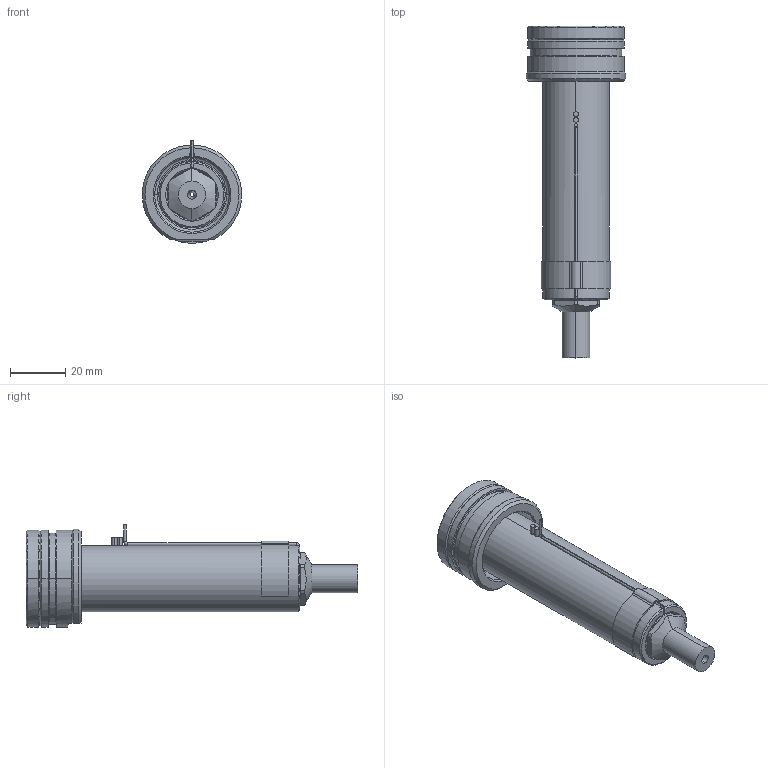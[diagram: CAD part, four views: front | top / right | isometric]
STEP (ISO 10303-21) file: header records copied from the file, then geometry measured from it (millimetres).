
FILE_DESCRIPTION((''),'2;1');
FILE_NAME('EO06_VG-FBE_WR_090_SW','2024-02-19T13:51:48',('sundharh'),(''),'CREO PARAMETRIC BY PTC INC, 2023154','CREO PARAMETRIC BY PTC INC, 2023154','');
FILE_SCHEMA(('CONFIG_CONTROL_DESIGN'));
Length unit declared in the file: millimetre
Products named in the file (1): EO06_VG-FBE_WR_090_SW
Bounding box: 35.93 x 120 x 37 mm (x, y, z)
Volume: 52384.4 mm3; surface area: 16290.6 mm2
Topology: 2 solids, 2 shells, 204 faces, 506 edges, 302 vertices
Faces by surface type: cylinder 76, plane 41, cone 40, torus 29, bspline 16, sphere 2
Entity records: 6964 total; most frequent: CARTESIAN_POINT 2068, DIRECTION 1094, ORIENTED_EDGE 996, EDGE_CURVE 498, AXIS2_PLACEMENT_3D 462, VERTEX_POINT 302, CIRCLE 274, EDGE_LOOP 218
